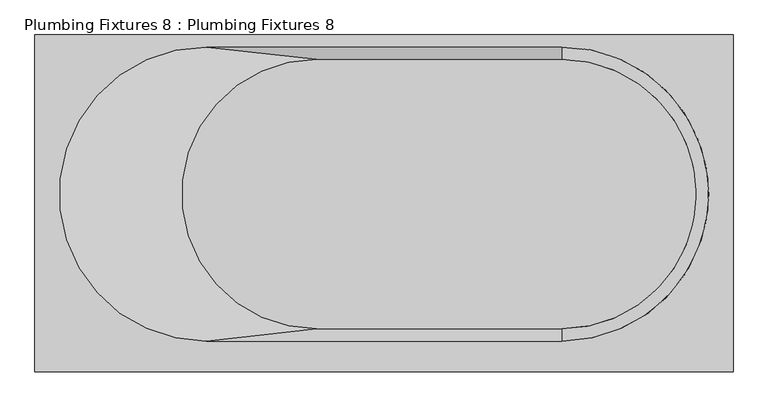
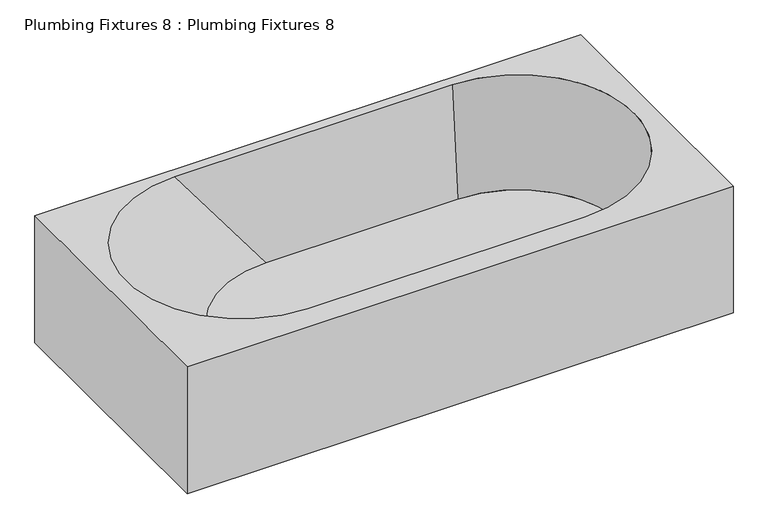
"""IFC4 building model written with IfcOpenShell, lengths in millimetres: flow terminal geometry, Plumbing Fixtures 8 : Plumbing Fixtures 8."""

from ifc_helpers import new_model, si_unit, frame, origin, place, context, project, spatial, polyline, circle_curve, source, transform, mapped, element, save
from ifc_brep_helpers import plane_surface, revolved_surface, spline_surface, advanced_brep


def plumbing_fixtures_8_plumbing_fixtures_8_eef5b3e7(model_context):
    return source(origin(), model_context, "Body", "AdvancedBrep", [
        advanced_brep(
        [(-2921.0, 13347.7, 355.6), (-1473.2, 13347.7, 355.6), (-1473.2, 14046.2, 355.6), (-2921.0, 14046.2, 355.6), (-2565.4, 14020.8, 355.6), (-1828.8, 14020.8, 355.6), (-1828.8, 13411.2, 355.6), (-2565.4, 13411.2, 355.6), (-2921.0, 13347.7, 0.0), (-2921.0, 14046.2, 0.0), (-1473.2, 14046.2, 0.0), (-1473.2, 13347.7, 0.0), (-1828.8, 13995.4, 50.8), (-2336.8, 13995.4, 50.8), (-2336.8, 13436.6, 50.8), (-1828.8, 13436.6, 50.8)],
        [
            (0, 1),
            (1, 2),
            (2, 3),
            (3, 0),
            (4, 5),
            (5, 6, circle_curve(frame((-1828.8, 13716.0, 355.6), z_axis=(0.0, 0.0, -1.0), x_axis=(0.0, 1.0, 0.0)), 304.8)),
            (6, 7),
            (7, 4, circle_curve(frame((-2565.4, 13716.0, 355.6), z_axis=(0.0, 0.0, -1.0), x_axis=(0.0, -1.0, 0.0)), 304.8)),
            (8, 9),
            (9, 10),
            (10, 11),
            (11, 8),
            (0, 8),
            (11, 1),
            (10, 2),
            (9, 3),
            (12, 13),
            (13, 14, circle_curve(frame((-2336.8, 13716.0, 50.8), z_axis=(0.0, 0.0, 1.0), x_axis=(0.0, -1.0, 0.0)), 279.4)),
            (14, 15),
            (15, 12, circle_curve(frame((-1828.8, 13716.0, 50.8), z_axis=(0.0, 0.0, 1.0), x_axis=(0.0, 1.0, 0.0)), 279.4)),
            (12, 5),
            (4, 13),
            (7, 14),
            (6, 15),
        ],
        [
            plane_surface(frame((-2914.65, 13347.7, 355.6), z_axis=(0.0, 0.0, 1.0), x_axis=(1.0, 0.0, 0.0))),
            plane_surface(frame((-2914.65, 13347.7, 0.0), z_axis=(0.0, 0.0, -1.0), x_axis=(-1.0, 0.0, 0.0))),
            plane_surface(frame((-2921.0, 13347.7, 355.6), z_axis=(0.0, -1.0, 0.0), x_axis=(0.0, 0.0, -1.0))),
            plane_surface(frame((-1473.2, 13347.7, 355.6), z_axis=(1.0, 0.0, 0.0), x_axis=(0.0, 0.0, -1.0))),
            plane_surface(frame((-1473.2, 14046.2, 355.6), z_axis=(0.0, 1.0, 0.0), x_axis=(0.0, 0.0, -1.0))),
            plane_surface(frame((-2921.0, 14046.2, 355.6), z_axis=(-1.0, 0.0, 0.0), x_axis=(0.0, 0.0, -1.0))),
            plane_surface(frame((-2082.8, 13716.0, 50.8), z_axis=(0.0, 0.0, 1.0), x_axis=(-1.0, 0.0, 0.0))),
            plane_surface(frame((-2197.1, 14020.8, 355.6), z_axis=(0.0, -0.9965457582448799, 0.08304547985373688), x_axis=(1.0, 0.0, 0.0))),
            spline_surface(1, 2, [[(-2565.4, 13411.2, 355.6), (-2870.1999999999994, 13411.2, 355.6), (-2870.1999999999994, 13716.0, 355.6), (-2870.1999999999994, 14020.8, 355.6), (-2565.4, 14020.8, 355.6)], [(-2336.8, 13436.6, 50.8), (-2616.2, 13436.6, 50.8), (-2616.2, 13716.0, 50.8), (-2616.2, 13995.4, 50.8), (-2336.8, 13995.4, 50.8)]], [2, 2], [3, 2, 3], [0.0, 1.0], [0.0, 1.0, 2.0], weights=[[1.0, 0.7071067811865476, 1.0, 0.7071067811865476, 1.0], [1.0, 0.7071067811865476, 1.0, 0.7071067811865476, 1.0]]),
            plane_surface(frame((-2197.1, 13411.2, 355.6), z_axis=(0.0, 0.996545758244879, 0.08304547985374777), x_axis=(-1.0, 0.0, 0.0))),
            revolved_surface(polyline([(-1828.8, 13411.2, 355.5999999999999), (-1828.8, 13436.6, 50.80000000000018)]), (-1828.8, 13716.0, -3302.0), (0.0, 0.0, 1.0)),
        ],
        [
            (0, [[1, 2, 3, 4], [5, 6, 7, 8]]),
            (1, [[9, 10, 11, 12]]),
            (2, [[-1, 13, -12, 14]]),
            (3, [[-2, -14, -11, 15]]),
            (4, [[-3, -15, -10, 16]]),
            (5, [[-4, -16, -9, -13]]),
            (6, [[17, 18, 19, 20]]),
            (7, [[-17, 21, -5, 22]]),
            (8, [[-18, -22, -8, 23]]),
            (9, [[-19, -23, -7, 24]]),
            (10, [[-20, -24, -6, -21]]),
        ],
    ),
    ])


if __name__ == "__main__":
    model = new_model("IFC4")
    model_context = context("Model", 3, world=origin())
    ifc_project = project(units=[si_unit("LENGTHUNIT", "METRE", prefix="MILLI")], contexts=[model_context])
    site = spatial("IfcSite", under=ifc_project)
    building = spatial("IfcBuilding", under=site)
    placement = place(None, origin())
    plumbing_fixtures_8_plumbing_fixtures_8_shape = plumbing_fixtures_8_plumbing_fixtures_8_eef5b3e7(model_context)
    element("IfcFlowTerminal", 1, ObjectType="Plumbing Fixtures 8 : Plumbing Fixtures 8", at=placement, inside=building, context=model_context, shape_type="MappedRepresentation", body=[
        mapped(plumbing_fixtures_8_plumbing_fixtures_8_shape, transform((0.0, 0.0, 0.0), x_axis=(1.0, 0.0, 0.0), y_axis=(0.0, 1.0, 0.0), z_axis=(0.0, 0.0, 1.0))),
    ])
    save(model, "model.ifc")
